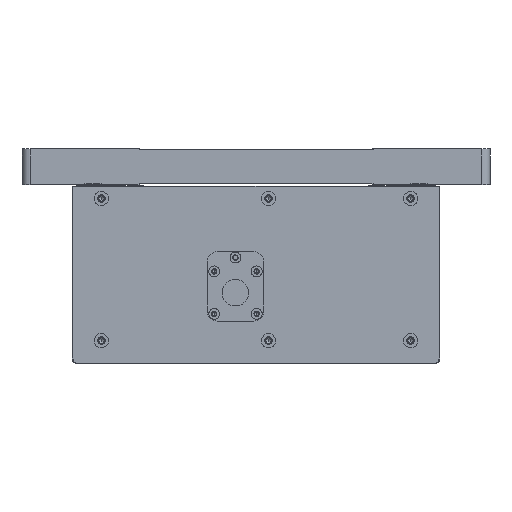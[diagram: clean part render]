
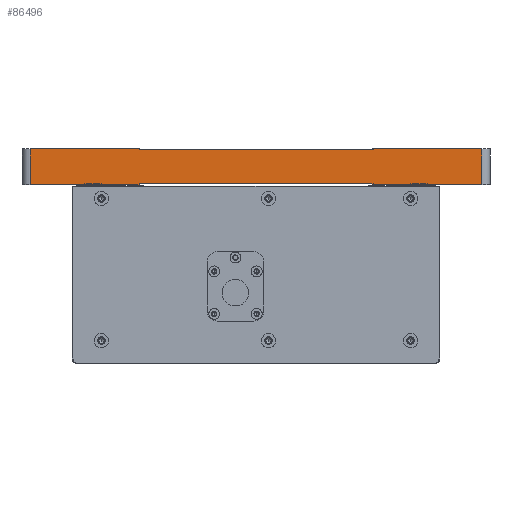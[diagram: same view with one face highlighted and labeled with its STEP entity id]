
A CAD part, left-side view. The second image highlights one B-rep face of the part: STEP entity #86496.
In plain terms, the highlighted planar face has unit normal (-1, 0, 0).
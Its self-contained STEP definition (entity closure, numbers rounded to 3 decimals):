
#2750 = DIRECTION ( 'NONE',  ( 1., 0., 0. ) ) ;
#2949 = CARTESIAN_POINT ( 'NONE',  ( 147.044, 208.628, 355.567 ) ) ;
#3609 = CARTESIAN_POINT ( 'NONE',  ( 147.044, 348.628, 335.067 ) ) ;
#4666 = AXIS2_PLACEMENT_3D ( 'NONE', #57801, #2750, #42153 ) ;
#5184 = VECTOR ( 'NONE', #68166, 1000. ) ;
#5288 = VERTEX_POINT ( 'NONE', #51142 ) ;
#5554 = CARTESIAN_POINT ( 'NONE',  ( 147.044, 348.628, 355.567 ) ) ;
#6639 = EDGE_CURVE ( 'NONE', #76400, #29450, #11308, .T. ) ;
#8671 = VECTOR ( 'NONE', #99841, 1000. ) ;
#9430 = VERTEX_POINT ( 'NONE', #58322 ) ;
#9824 = ORIENTED_EDGE ( 'NONE', *, *, #40931, .F. ) ;
#11308 = LINE ( 'NONE', #36603, #5184 ) ;
#11375 = ORIENTED_EDGE ( 'NONE', *, *, #16988, .T. ) ;
#13464 = VERTEX_POINT ( 'NONE', #31815 ) ;
#13513 = EDGE_CURVE ( 'NONE', #46598, #5288, #28858, .T. ) ;
#13588 = LINE ( 'NONE', #29119, #8671 ) ;
#14158 = CARTESIAN_POINT ( 'NONE',  ( 147.044, 143.628, 356.067 ) ) ;
#14316 = VECTOR ( 'NONE', #72746, 1000. ) ;
#14326 = ORIENTED_EDGE ( 'NONE', *, *, #13513, .T. ) ;
#14632 = EDGE_CURVE ( 'NONE', #13464, #16195, #53649, .T. ) ;
#15076 = EDGE_CURVE ( 'NONE', #61827, #92125, #34956, .T. ) ;
#15172 = DIRECTION ( 'NONE',  ( 0., 0., 1. ) ) ;
#16195 = VERTEX_POINT ( 'NONE', #83163 ) ;
#16988 = EDGE_CURVE ( 'NONE', #29450, #9430, #13588, .T. ) ;
#18745 = EDGE_CURVE ( 'NONE', #9430, #16195, #23222, .T. ) ;
#21074 = VERTEX_POINT ( 'NONE', #61957 ) ;
#21399 = VECTOR ( 'NONE', #72458, 1000. ) ;
#21964 = ORIENTED_EDGE ( 'NONE', *, *, #15076, .T. ) ;
#22525 = EDGE_CURVE ( 'NONE', #61827, #40089, #69632, .T. ) ;
#23222 = LINE ( 'NONE', #14158, #25710 ) ;
#23389 = ORIENTED_EDGE ( 'NONE', *, *, #6639, .T. ) ;
#23575 = VERTEX_POINT ( 'NONE', #94057 ) ;
#23820 = DIRECTION ( 'NONE',  ( 0., 0., -1. ) ) ;
#23991 = VECTOR ( 'NONE', #23820, 1000. ) ;
#25014 = DIRECTION ( 'NONE',  ( 0., -1., 0. ) ) ;
#25144 = CARTESIAN_POINT ( 'NONE',  ( 147.044, 138.628, 334.567 ) ) ;
#25244 = CARTESIAN_POINT ( 'NONE',  ( 147.044, 208.628, 335.067 ) ) ;
#25710 = VECTOR ( 'NONE', #15172, 1000. ) ;
#27511 = VECTOR ( 'NONE', #25014, 1000. ) ;
#28858 = LINE ( 'NONE', #86898, #23991 ) ;
#29119 = CARTESIAN_POINT ( 'NONE',  ( 147.044, 138.628, 334.567 ) ) ;
#29450 = VERTEX_POINT ( 'NONE', #75182 ) ;
#30063 = LINE ( 'NONE', #25144, #77188 ) ;
#31815 = CARTESIAN_POINT ( 'NONE',  ( 147.044, 208.628, 356.067 ) ) ;
#33505 = DIRECTION ( 'NONE',  ( 0., -1., 0. ) ) ;
#34956 = LINE ( 'NONE', #57782, #72136 ) ;
#36072 = VECTOR ( 'NONE', #57312, 1000. ) ;
#36603 = CARTESIAN_POINT ( 'NONE',  ( 147.044, 208.628, 335.067 ) ) ;
#39393 = DIRECTION ( 'NONE',  ( 0., 0., 1. ) ) ;
#39900 = LINE ( 'NONE', #40602, #27511 ) ;
#40089 = VERTEX_POINT ( 'NONE', #98920 ) ;
#40602 = CARTESIAN_POINT ( 'NONE',  ( 147.044, 138.628, 356.067 ) ) ;
#40841 = CARTESIAN_POINT ( 'NONE',  ( 147.044, 348.628, 335.067 ) ) ;
#40889 = CARTESIAN_POINT ( 'NONE',  ( 147.044, 138.628, 356.067 ) ) ;
#40931 = EDGE_CURVE ( 'NONE', #21074, #23575, #75074, .T. ) ;
#40979 = ORIENTED_EDGE ( 'NONE', *, *, #41797, .F. ) ;
#41797 = EDGE_CURVE ( 'NONE', #76400, #21074, #74974, .T. ) ;
#42153 = DIRECTION ( 'NONE',  ( 0., 0., -1. ) ) ;
#46598 = VERTEX_POINT ( 'NONE', #69114 ) ;
#47676 = LINE ( 'NONE', #93498, #67527 ) ;
#49779 = DIRECTION ( 'NONE',  ( 0., 0., 1. ) ) ;
#50821 = PLANE ( 'NONE',  #4666 ) ;
#50886 = ORIENTED_EDGE ( 'NONE', *, *, #67946, .T. ) ;
#51142 = CARTESIAN_POINT ( 'NONE',  ( 147.044, 413.628, 334.567 ) ) ;
#53649 = LINE ( 'NONE', #40889, #21399 ) ;
#57312 = DIRECTION ( 'NONE',  ( 0., -1., 0. ) ) ;
#57782 = CARTESIAN_POINT ( 'NONE',  ( 147.044, 348.628, 355.567 ) ) ;
#57801 = CARTESIAN_POINT ( 'NONE',  ( 147.044, 138.628, 356.067 ) ) ;
#58322 = CARTESIAN_POINT ( 'NONE',  ( 147.044, 143.628, 334.567 ) ) ;
#58594 = ORIENTED_EDGE ( 'NONE', *, *, #99164, .F. ) ;
#59020 = CARTESIAN_POINT ( 'NONE',  ( 147.044, 348.628, 356.067 ) ) ;
#61827 = VERTEX_POINT ( 'NONE', #5554 ) ;
#61957 = CARTESIAN_POINT ( 'NONE',  ( 147.044, 348.628, 335.067 ) ) ;
#67527 = VECTOR ( 'NONE', #39393, 1000. ) ;
#67946 = EDGE_CURVE ( 'NONE', #5288, #23575, #30063, .T. ) ;
#68166 = DIRECTION ( 'NONE',  ( 0., 0., -1. ) ) ;
#69114 = CARTESIAN_POINT ( 'NONE',  ( 147.044, 413.628, 356.067 ) ) ;
#69632 = LINE ( 'NONE', #2949, #36072 ) ;
#70560 = ORIENTED_EDGE ( 'NONE', *, *, #14632, .F. ) ;
#71207 = FACE_OUTER_BOUND ( 'NONE', #99471, .T. ) ;
#72136 = VECTOR ( 'NONE', #49779, 1000. ) ;
#72458 = DIRECTION ( 'NONE',  ( 0., -1., 0. ) ) ;
#72746 = DIRECTION ( 'NONE',  ( 0., 0., -1. ) ) ;
#74974 = LINE ( 'NONE', #3609, #101009 ) ;
#75074 = LINE ( 'NONE', #40841, #14316 ) ;
#75182 = CARTESIAN_POINT ( 'NONE',  ( 147.044, 208.628, 334.567 ) ) ;
#75927 = DIRECTION ( 'NONE',  ( 0., 1., 0. ) ) ;
#76400 = VERTEX_POINT ( 'NONE', #25244 ) ;
#77188 = VECTOR ( 'NONE', #33505, 1000. ) ;
#81537 = ORIENTED_EDGE ( 'NONE', *, *, #97398, .F. ) ;
#83163 = CARTESIAN_POINT ( 'NONE',  ( 147.044, 143.628, 356.067 ) ) ;
#86496 = ADVANCED_FACE ( 'NONE', ( #71207 ), #50821, .F. ) ;
#86898 = CARTESIAN_POINT ( 'NONE',  ( 147.044, 413.628, 356.067 ) ) ;
#89765 = ORIENTED_EDGE ( 'NONE', *, *, #22525, .F. ) ;
#89840 = ORIENTED_EDGE ( 'NONE', *, *, #18745, .T. ) ;
#92125 = VERTEX_POINT ( 'NONE', #59020 ) ;
#93498 = CARTESIAN_POINT ( 'NONE',  ( 147.044, 208.628, 355.567 ) ) ;
#94057 = CARTESIAN_POINT ( 'NONE',  ( 147.044, 348.628, 334.567 ) ) ;
#97398 = EDGE_CURVE ( 'NONE', #40089, #13464, #47676, .T. ) ;
#98920 = CARTESIAN_POINT ( 'NONE',  ( 147.044, 208.628, 355.567 ) ) ;
#99164 = EDGE_CURVE ( 'NONE', #46598, #92125, #39900, .T. ) ;
#99471 = EDGE_LOOP ( 'NONE', ( #70560, #81537, #89765, #21964, #58594, #14326, #50886, #9824, #40979, #23389, #11375, #89840 ) ) ;
#99841 = DIRECTION ( 'NONE',  ( 0., -1., 0. ) ) ;
#101009 = VECTOR ( 'NONE', #75927, 1000. ) ;
